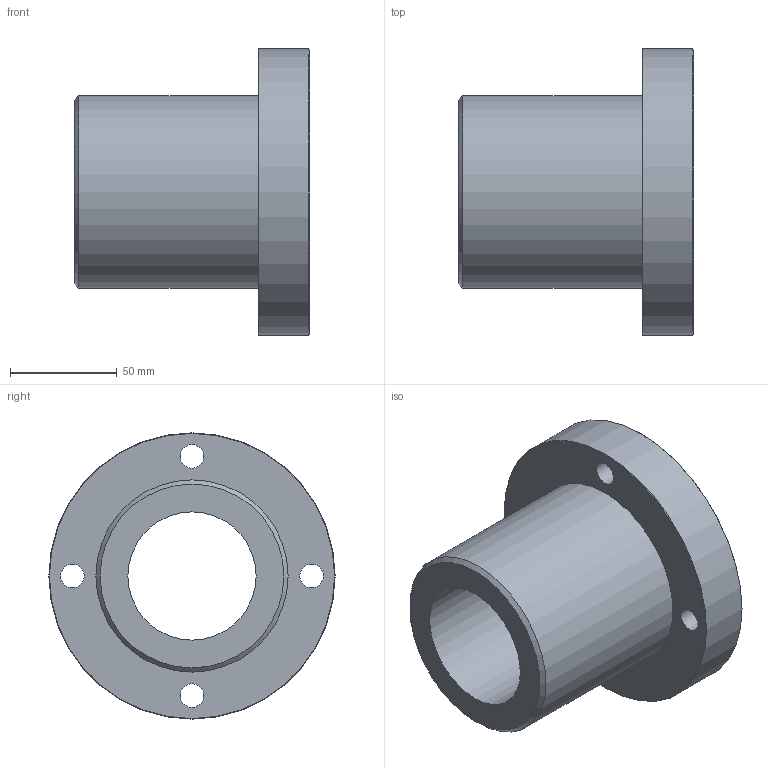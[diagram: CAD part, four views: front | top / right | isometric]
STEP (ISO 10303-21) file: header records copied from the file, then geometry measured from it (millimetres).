
FILE_DESCRIPTION(('STEP AP203'),'1');
FILE_NAME('//192.168.1.1/share/s-4 技術開発/s-4-4_CAD/s-4-4-3_見直し済み/PBC LINEAR修正済み/3D途中/SFPJ/SFPJR/SFPJR60.step','2022-03-24T06:13:53',(' '),(' '),'Spatial InterOp 3D',' ',' ');
FILE_SCHEMA(('CONFIG_CONTROL_DESIGN'));
Length unit declared in the file: millimetre
Products named in the file (1): 1
Bounding box: 110 x 134 x 134 mm (x, y, z)
Volume: 558987.5 mm3; surface area: 80636.4 mm2
Topology: 1 solids, 1 shells, 21 faces, 44 edges, 30 vertices
Faces by surface type: cylinder 11, plane 7, cone 3
Full cylindrical faces by diameter (mm): 11 x4, 17 x4, 60 x1, 90 x1, 134 x1
Entity records: 528 total; most frequent: DIRECTION 94, CARTESIAN_POINT 72, EDGE_LOOP 50, ORIENTED_EDGE 50, AXIS2_PLACEMENT_3D 47, FACE_OUTER_BOUND 32, EDGE_CURVE 25, VERTEX_POINT 25
